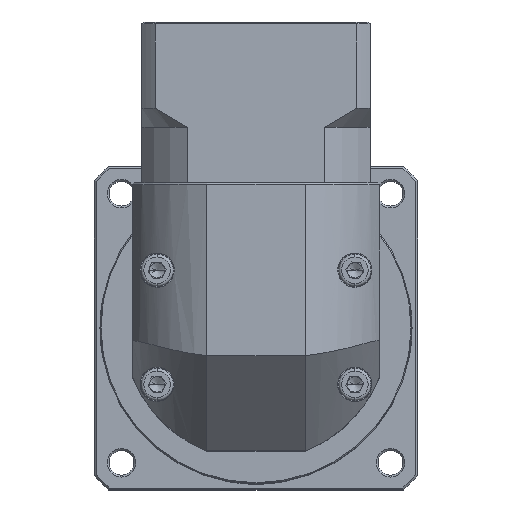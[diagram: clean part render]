
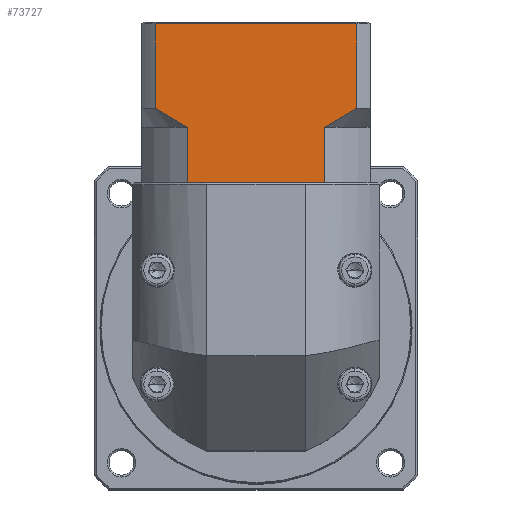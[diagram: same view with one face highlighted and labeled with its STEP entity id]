
A CAD part, top view. The second image highlights one B-rep face of the part: STEP entity #73727.
In plain terms, the highlighted planar face has unit normal (0, 0, 1).
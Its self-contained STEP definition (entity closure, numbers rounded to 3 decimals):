
#983 = VERTEX_POINT ( 'NONE', #134514 ) ;
#7476 = DIRECTION ( 'NONE',  ( 1., 0., 0. ) ) ;
#8106 = DIRECTION ( 'NONE',  ( 0., -1., 0. ) ) ;
#11563 = DIRECTION ( 'NONE',  ( 0., 1., 0. ) ) ;
#12474 = VECTOR ( 'NONE', #121378, 1000. ) ;
#12840 = ORIENTED_EDGE ( 'NONE', *, *, #54452, .F. ) ;
#14122 = CARTESIAN_POINT ( 'NONE',  ( -96.382, 76.299, 37.609 ) ) ;
#15666 = CARTESIAN_POINT ( 'NONE',  ( -83.419, 76.299, 37.609 ) ) ;
#16826 = CARTESIAN_POINT ( 'NONE',  ( -84.41, 76.299, 37.609 ) ) ;
#18973 = CARTESIAN_POINT ( 'NONE',  ( -96.382, 76.299, 37.609 ) ) ;
#21497 = ORIENTED_EDGE ( 'NONE', *, *, #130092, .F. ) ;
#21753 = EDGE_CURVE ( 'NONE', #101725, #107625, #60560, .T. ) ;
#22467 = DIRECTION ( 'NONE',  ( 0., 1., 0. ) ) ;
#24330 = DIRECTION ( 'NONE',  ( 1., 0., 0. ) ) ;
#27406 = EDGE_CURVE ( 'NONE', #136203, #44499, #109159, .T. ) ;
#28115 = CARTESIAN_POINT ( 'NONE',  ( -85.862, 91.547, 37.609 ) ) ;
#30289 = LINE ( 'NONE', #134697, #111929 ) ;
#32971 = VECTOR ( 'NONE', #117292, 1000. ) ;
#36612 = ORIENTED_EDGE ( 'NONE', *, *, #120261, .F. ) ;
#37339 = CARTESIAN_POINT ( 'NONE',  ( -46.898, 91.549, 37.609 ) ) ;
#38809 = CARTESIAN_POINT ( 'NONE',  ( -84.41, 90.799, 37.609 ) ) ;
#39080 = CARTESIAN_POINT ( 'NONE',  ( -39.924, 95.799, 37.609 ) ) ;
#41172 = VERTEX_POINT ( 'NONE', #137338 ) ;
#42743 = CARTESIAN_POINT ( 'NONE',  ( -39.924, 90.799, 37.609 ) ) ;
#44499 = VERTEX_POINT ( 'NONE', #105352 ) ;
#46220 = VECTOR ( 'NONE', #7476, 1000. ) ;
#46614 = CARTESIAN_POINT ( 'NONE',  ( -41.287, 94.898, 37.609 ) ) ;
#47547 = CARTESIAN_POINT ( 'NONE',  ( -48.354, 90.799, 37.609 ) ) ;
#49931 = CARTESIAN_POINT ( 'NONE',  ( -91.479, 94.9, 37.609 ) ) ;
#52224 = VERTEX_POINT ( 'NONE', #136853 ) ;
#53766 = PLANE ( 'NONE',  #106344 ) ;
#54452 = EDGE_CURVE ( 'NONE', #101725, #983, #65629, .T. ) ;
#55064 = ORIENTED_EDGE ( 'NONE', *, *, #60179, .T. ) ;
#58908 = B_SPLINE_CURVE_WITH_KNOTS ( 'NONE', 3,
 ( #47547, #37339, #68430, #89440, #46614, #111869 ),
 .UNSPECIFIED., .F., .F.,
 ( 4, 2, 4 ),
 ( 0.1, 0.104, 0.109 ),
 .UNSPECIFIED. ) ;
#59174 = EDGE_CURVE ( 'NONE', #41172, #62487, #86180, .T. ) ;
#60179 = EDGE_CURVE ( 'NONE', #99615, #983, #77903, .T. ) ;
#60560 = LINE ( 'NONE', #18973, #63864 ) ;
#62487 = VERTEX_POINT ( 'NONE', #39080 ) ;
#63864 = VECTOR ( 'NONE', #115287, 1000. ) ;
#64446 = DIRECTION ( 'NONE',  ( 0., 0., -1. ) ) ;
#65629 = LINE ( 'NONE', #131238, #12474 ) ;
#68430 = CARTESIAN_POINT ( 'NONE',  ( -45.472, 92.35, 37.609 ) ) ;
#70637 = ORIENTED_EDGE ( 'NONE', *, *, #21753, .T. ) ;
#70825 = CARTESIAN_POINT ( 'NONE',  ( -87.293, 92.351, 37.609 ) ) ;
#71554 = CARTESIAN_POINT ( 'NONE',  ( -48.354, 90.799, 37.609 ) ) ;
#71830 = VECTOR ( 'NONE', #22467, 1000. ) ;
#73727 = ADVANCED_FACE ( 'NONE', ( #106113 ), #53766, .F. ) ;
#76728 = EDGE_LOOP ( 'NONE', ( #98341, #122653, #36612, #55064, #12840, #70637, #83022, #123102, #21497, #98485 ) ) ;
#77406 = VECTOR ( 'NONE', #24330, 1000. ) ;
#77903 = B_SPLINE_CURVE_WITH_KNOTS ( 'NONE', 3,
 ( #123543, #49931, #81087, #70825, #28115, #38809 ),
 .UNSPECIFIED., .F., .F.,
 ( 4, 2, 4 ),
 ( 0.052, 0.057, 0.062 ),
 .UNSPECIFIED. ) ;
#81087 = CARTESIAN_POINT ( 'NONE',  ( -90.101, 94.026, 37.609 ) ) ;
#82975 = DIRECTION ( 'NONE',  ( -1., 0., 0. ) ) ;
#83022 = ORIENTED_EDGE ( 'NONE', *, *, #92366, .T. ) ;
#86180 = LINE ( 'NONE', #42743, #32971 ) ;
#89440 = CARTESIAN_POINT ( 'NONE',  ( -42.667, 94.024, 37.609 ) ) ;
#92366 = EDGE_CURVE ( 'NONE', #107625, #136203, #109644, .T. ) ;
#98341 = ORIENTED_EDGE ( 'NONE', *, *, #59174, .F. ) ;
#98485 = ORIENTED_EDGE ( 'NONE', *, *, #113391, .T. ) ;
#99615 = VERTEX_POINT ( 'NONE', #135222 ) ;
#101433 = CARTESIAN_POINT ( 'NONE',  ( -96.382, 76.299, 37.609 ) ) ;
#101725 = VERTEX_POINT ( 'NONE', #16826 ) ;
#104243 = VECTOR ( 'NONE', #82975, 1000. ) ;
#105352 = CARTESIAN_POINT ( 'NONE',  ( -48.354, 76.299, 37.609 ) ) ;
#106113 = FACE_OUTER_BOUND ( 'NONE', #76728, .T. ) ;
#106344 = AXIS2_PLACEMENT_3D ( 'NONE', #128315, #64446, #11563 ) ;
#106806 = CARTESIAN_POINT ( 'NONE',  ( -49.345, 76.299, 37.609 ) ) ;
#107211 = CARTESIAN_POINT ( 'NONE',  ( -92.839, 90.799, 37.609 ) ) ;
#107625 = VERTEX_POINT ( 'NONE', #15666 ) ;
#109159 = LINE ( 'NONE', #14122, #77406 ) ;
#109644 = LINE ( 'NONE', #101433, #46220 ) ;
#111869 = CARTESIAN_POINT ( 'NONE',  ( -39.924, 95.799, 37.609 ) ) ;
#111929 = VECTOR ( 'NONE', #8106, 1000. ) ;
#112461 = VERTEX_POINT ( 'NONE', #71554 ) ;
#112659 = LINE ( 'NONE', #133477, #104243 ) ;
#113077 = EDGE_CURVE ( 'NONE', #41172, #52224, #112659, .T. ) ;
#113391 = EDGE_CURVE ( 'NONE', #112461, #62487, #58908, .T. ) ;
#115287 = DIRECTION ( 'NONE',  ( 1., 0., 0. ) ) ;
#117292 = DIRECTION ( 'NONE',  ( 0., -1., 0. ) ) ;
#118560 = LINE ( 'NONE', #107211, #71830 ) ;
#120261 = EDGE_CURVE ( 'NONE', #99615, #52224, #118560, .T. ) ;
#121378 = DIRECTION ( 'NONE',  ( 0., 1., 0. ) ) ;
#122653 = ORIENTED_EDGE ( 'NONE', *, *, #113077, .T. ) ;
#123102 = ORIENTED_EDGE ( 'NONE', *, *, #27406, .T. ) ;
#123543 = CARTESIAN_POINT ( 'NONE',  ( -92.839, 95.799, 37.609 ) ) ;
#128315 = CARTESIAN_POINT ( 'NONE',  ( -96.382, 118.499, 37.609 ) ) ;
#130092 = EDGE_CURVE ( 'NONE', #112461, #44499, #30289, .T. ) ;
#131238 = CARTESIAN_POINT ( 'NONE',  ( -84.41, 90.799, 37.609 ) ) ;
#133477 = CARTESIAN_POINT ( 'NONE',  ( -96.382, 117.999, 37.609 ) ) ;
#134514 = CARTESIAN_POINT ( 'NONE',  ( -84.41, 90.799, 37.609 ) ) ;
#134697 = CARTESIAN_POINT ( 'NONE',  ( -48.354, 90.799, 37.609 ) ) ;
#135222 = CARTESIAN_POINT ( 'NONE',  ( -92.839, 95.799, 37.609 ) ) ;
#136203 = VERTEX_POINT ( 'NONE', #106806 ) ;
#136853 = CARTESIAN_POINT ( 'NONE',  ( -92.839, 117.999, 37.609 ) ) ;
#137338 = CARTESIAN_POINT ( 'NONE',  ( -39.924, 117.999, 37.609 ) ) ;
